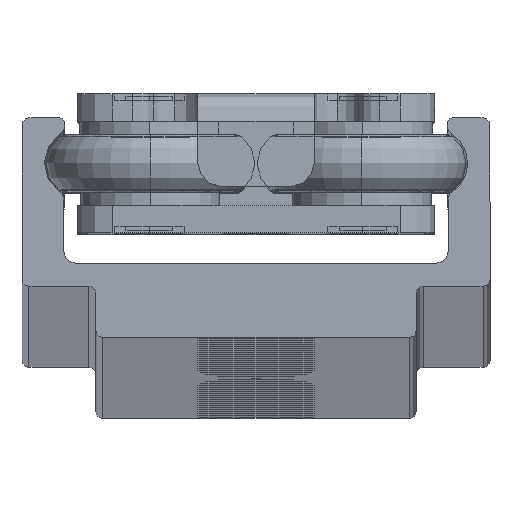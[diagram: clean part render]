
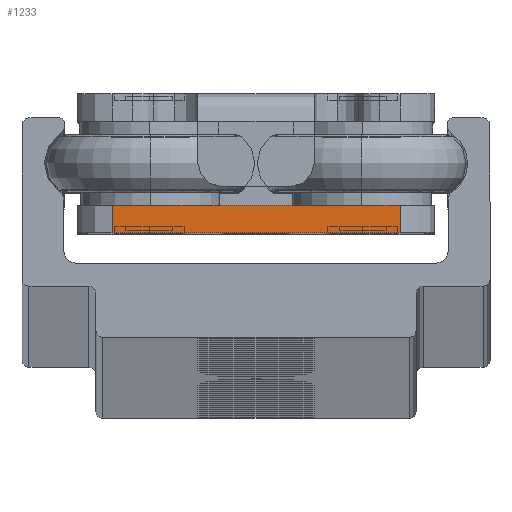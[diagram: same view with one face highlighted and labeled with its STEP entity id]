
A CAD part, top view. The second image highlights one B-rep face of the part: STEP entity #1233.
In plain terms, the highlighted planar face has unit normal (0, 0, 1).
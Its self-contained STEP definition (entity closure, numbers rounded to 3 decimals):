
#59 = VERTEX_POINT ( 'NONE', #16435 ) ;
#336 = DIRECTION ( 'NONE',  ( 0., 1., 0. ) ) ;
#628 = EDGE_CURVE ( 'NONE', #17472, #6070, #18661, .T. ) ;
#1233 = ADVANCED_FACE ( 'NONE', ( #15709 ), #18361, .F. ) ;
#1487 = EDGE_CURVE ( 'NONE', #4944, #17472, #7474, .T. ) ;
#1606 = ORIENTED_EDGE ( 'NONE', *, *, #1487, .T. ) ;
#1672 = CARTESIAN_POINT ( 'NONE',  ( -7.7, -4.8, 20. ) ) ;
#3023 = LINE ( 'NONE', #3118, #8395 ) ;
#3118 = CARTESIAN_POINT ( 'NONE',  ( -6.2, -6., 20. ) ) ;
#3498 = EDGE_CURVE ( 'NONE', #6070, #59, #3023, .T. ) ;
#3531 = EDGE_LOOP ( 'NONE', ( #5700, #1606, #9592, #11273 ) ) ;
#3830 = DIRECTION ( 'NONE',  ( -1., 0., 0. ) ) ;
#3926 = DIRECTION ( 'NONE',  ( 0., 0., -1. ) ) ;
#4831 = DIRECTION ( 'NONE',  ( -1., 0., 0. ) ) ;
#4944 = VERTEX_POINT ( 'NONE', #9045 ) ;
#5700 = ORIENTED_EDGE ( 'NONE', *, *, #7507, .F. ) ;
#6070 = VERTEX_POINT ( 'NONE', #15683 ) ;
#7035 = DIRECTION ( 'NONE',  ( -1., 0., 0. ) ) ;
#7474 = LINE ( 'NONE', #13043, #14354 ) ;
#7507 = EDGE_CURVE ( 'NONE', #4944, #59, #7910, .T. ) ;
#7910 = LINE ( 'NONE', #16342, #10005 ) ;
#8395 = VECTOR ( 'NONE', #11502, 1000. ) ;
#8951 = VECTOR ( 'NONE', #7035, 1000. ) ;
#9045 = CARTESIAN_POINT ( 'NONE',  ( 6.2, -6., 20. ) ) ;
#9592 = ORIENTED_EDGE ( 'NONE', *, *, #628, .T. ) ;
#10005 = VECTOR ( 'NONE', #4831, 1000. ) ;
#11273 = ORIENTED_EDGE ( 'NONE', *, *, #3498, .T. ) ;
#11502 = DIRECTION ( 'NONE',  ( 0., -1., 0. ) ) ;
#11639 = AXIS2_PLACEMENT_3D ( 'NONE', #18268, #3926, #3830 ) ;
#13043 = CARTESIAN_POINT ( 'NONE',  ( 6.2, -6., 20. ) ) ;
#14150 = CARTESIAN_POINT ( 'NONE',  ( 6.2, -4.8, 20. ) ) ;
#14354 = VECTOR ( 'NONE', #336, 1000. ) ;
#15683 = CARTESIAN_POINT ( 'NONE',  ( -6.2, -4.8, 20. ) ) ;
#15709 = FACE_OUTER_BOUND ( 'NONE', #3531, .T. ) ;
#16342 = CARTESIAN_POINT ( 'NONE',  ( -7.7, -6., 20. ) ) ;
#16435 = CARTESIAN_POINT ( 'NONE',  ( -6.2, -6., 20. ) ) ;
#17472 = VERTEX_POINT ( 'NONE', #14150 ) ;
#18268 = CARTESIAN_POINT ( 'NONE',  ( -7.7, -6., 20. ) ) ;
#18361 = PLANE ( 'NONE',  #11639 ) ;
#18661 = LINE ( 'NONE', #1672, #8951 ) ;
